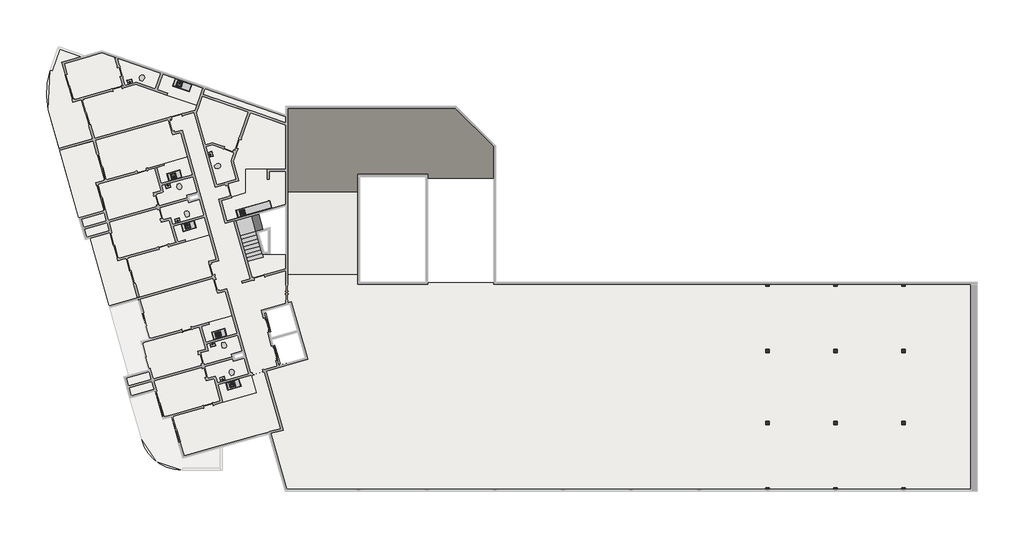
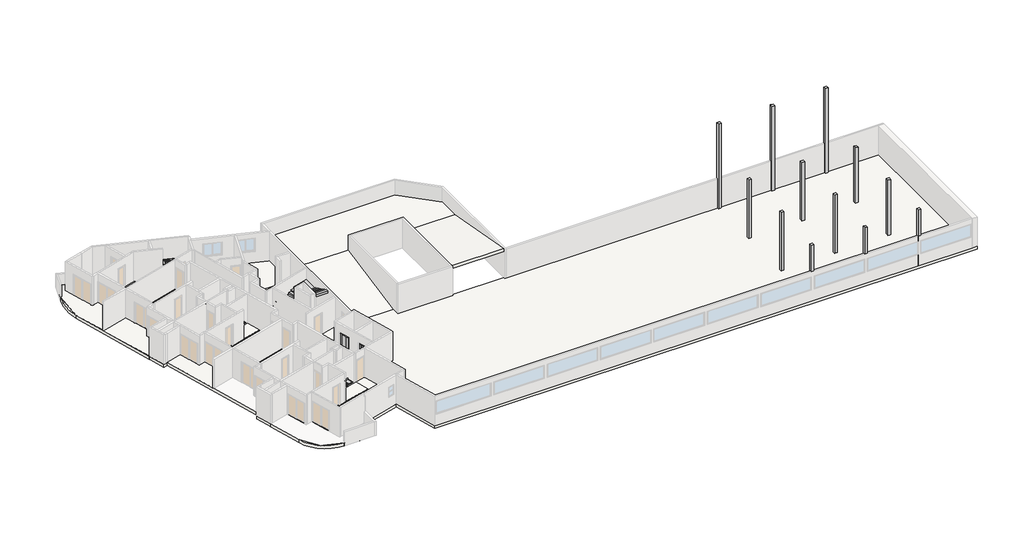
# One storey, part 4 of 4: 18 flow terminals, 17 slabs, 12 columns, 8 proxies, 1 stair flight.
"""IFC4 building model written with IfcOpenShell, lengths in millimetres."""

from ifc_helpers import new_model, si_unit, point, frame, frame_2d, origin, place, context, project, spatial, polyline, circle_curve, trimmed, segment, composite_curve, outline, extrude, faceted_brep, transform, mapped, element, save
from components import specialty_equipment_6c35da8b, specialty_equipment_77dfa124, rf_bancada_cozinha_rf_bancada_cozinha_340fef9f, rf_bancada_cozinha_rf_bancada_cozinha_cfb88ba1, rf_bancada_cozinha_rf_bancada_cozinha_2f873929, rf_bancada_cozinha_rf_bancada_cozinha_798ceddf, flow_terminal_cab7bae2, flow_terminal_3fb7dc42, flow_terminal_e42b9071, flow_terminal_c6e042c4, ap_01_creme_cr37_13e02e03, ap_01_creme_cr37_5ce6e54d

model = new_model("IFC4")

# Units and contexts
model_context = context("Model", 3, world=origin())
ifc_project = project(units=[si_unit("LENGTHUNIT", "METRE", prefix="MILLI")], contexts=[model_context])

# Site, building, storey
site = spatial("IfcSite", under=ifc_project)
building = spatial("IfcBuilding", under=site)
storey = spatial("IfcBuildingStorey", under=building, Name="Garagem 3", Elevation=42050.0)

# Proxies
placement = place(None, origin())
specialty_equipment_shape = specialty_equipment_6c35da8b(model_context)
element("IfcBuildingElementProxy", 1, Name="Porta do elevador : Porta do elevador", ObjectType="Porta do elevador : Porta do elevador", at=placement, inside=storey, context=model_context, shape_type="MappedRepresentation", body=[
    mapped(specialty_equipment_shape, transform((-76594.4337486, 15747.4543727, 42050.0), x_axis=(0.27176796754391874, -0.9623628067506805, 0.0), y_axis=(0.9623628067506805, 0.27176796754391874, 0.0), z_axis=(0.0, 0.0, 1.0))),
])
specialty_equipment_2_shape = specialty_equipment_77dfa124(model_context)
element("IfcBuildingElementProxy", 2, Name="Porta do elevador : Porta do elevador", ObjectType="Porta do elevador : Porta do elevador", at=placement, inside=storey, context=model_context, shape_type="MappedRepresentation", body=[
    mapped(specialty_equipment_2_shape, transform((-75942.1906265, 13437.7836365, 42050.0), x_axis=(-0.27176796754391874, 0.9623628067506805, 0.0), y_axis=(-0.9623628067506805, -0.27176796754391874, 0.0), z_axis=(0.0, 0.0, 1.0))),
])
rf_bancada_cozinha_rf_bancada_cozinha_shape = rf_bancada_cozinha_rf_bancada_cozinha_340fef9f(model_context)
element("IfcBuildingElementProxy", 3, Name="RF_Bancada Cozinha : RF_Bancada Cozinha", ObjectType="RF_Bancada Cozinha : RF_Bancada Cozinha", at=placement, inside=storey, context=model_context, shape_type="MappedRepresentation", body=[
    mapped(rf_bancada_cozinha_rf_bancada_cozinha_shape, transform((-82760.548019, 26451.5820971, 42800.0), x_axis=(-0.9623628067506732, -0.27176796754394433, 0.0), y_axis=(0.27176796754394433, -0.9623628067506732, 0.0), z_axis=(0.0, 0.0, 1.0))),
])
element("IfcBuildingElementProxy", 4, Name="RF_Bancada Cozinha : RF_Bancada Cozinha", ObjectType="RF_Bancada Cozinha : RF_Bancada Cozinha", at=placement, inside=storey, context=model_context, shape_type="MappedRepresentation", body=[
    mapped(rf_bancada_cozinha_rf_bancada_cozinha_shape, transform((-79472.1556117, 14806.9921354, 42800.0), x_axis=(-0.9623628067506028, -0.2717679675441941, 0.0), y_axis=(0.2717679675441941, -0.9623628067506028, 0.0), z_axis=(0.0, 0.0, 1.0))),
])
rf_bancada_cozinha_rf_bancada_cozinha_2_shape = rf_bancada_cozinha_rf_bancada_cozinha_cfb88ba1(model_context)
element("IfcBuildingElementProxy", 5, Name="RF_Bancada Cozinha : RF_Bancada Cozinha", ObjectType="RF_Bancada Cozinha : RF_Bancada Cozinha", at=placement, inside=storey, context=model_context, shape_type="MappedRepresentation", body=[
    mapped(rf_bancada_cozinha_rf_bancada_cozinha_2_shape, transform((-81877.3021245, 23323.9029751, 42800.0), x_axis=(-0.9623628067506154, -0.27176796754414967, 0.0), y_axis=(0.27176796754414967, -0.9623628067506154, 0.0), z_axis=(0.0, 0.0, 1.0))),
])
element("IfcBuildingElementProxy", 6, Name="RF_Bancada Cozinha : RF_Bancada Cozinha", ObjectType="RF_Bancada Cozinha : RF_Bancada Cozinha", at=placement, inside=storey, context=model_context, shape_type="MappedRepresentation", body=[
    mapped(rf_bancada_cozinha_rf_bancada_cozinha_2_shape, transform((-78588.9097172, 11679.3130134, 42800.0), x_axis=(-0.9623628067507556, -0.27176796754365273, 0.0), y_axis=(0.27176796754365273, -0.9623628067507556, 0.0), z_axis=(0.0, 0.0, 1.0))),
])
rf_bancada_cozinha_rf_bancada_cozinha_3_shape = rf_bancada_cozinha_rf_bancada_cozinha_2f873929(model_context)
element("IfcBuildingElementProxy", 7, Name="RF_Bancada Cozinha : RF_Bancada Cozinha", ObjectType="RF_Bancada Cozinha : RF_Bancada Cozinha", at=placement, inside=storey, context=model_context, shape_type="MappedRepresentation", body=[
    mapped(rf_bancada_cozinha_rf_bancada_cozinha_3_shape, transform((-82030.0326121, 33293.9830661, 42800.0), x_axis=(-0.9449109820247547, 0.32732741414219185, 0.0), y_axis=(-0.32732741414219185, -0.9449109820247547, 0.0), z_axis=(0.0, 0.0, 1.0))),
])
rf_bancada_cozinha_rf_bancada_cozinha_4_shape = rf_bancada_cozinha_rf_bancada_cozinha_798ceddf(model_context)
element("IfcBuildingElementProxy", 8, Name="RF_Bancada Cozinha : RF_Bancada Cozinha", ObjectType="RF_Bancada Cozinha : RF_Bancada Cozinha", at=placement, inside=storey, context=model_context, shape_type="MappedRepresentation", body=[
    mapped(rf_bancada_cozinha_rf_bancada_cozinha_4_shape, transform((-76157.6622331, 24197.9763092, 42800.0), x_axis=(-0.9623628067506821, -0.27176796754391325, 0.0), y_axis=(0.27176796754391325, -0.9623628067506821, 0.0), z_axis=(0.0, 0.0, 1.0))),
])

# Columns
element("IfcColumn", 9, ObjectType="M_Concrete-Rectangular-Column : 0.25m", at=placement, inside=storey, context=model_context, shape_type="SweptSolid", body=[
    extrude(outline(polyline([(-39675.8696428, 3676.0495751), (-39675.8696428, 3426.0495751), (-39925.8696428, 3426.0495751), (-39925.8696428, 3676.0495751), (-39675.8696428, 3676.0495751)])), frame((0.0, 0.0, 42050.0), z_axis=(0.0, 0.0, 1.0), x_axis=(1.0, 0.0, 0.0)), (0.0, 0.0, 1.0), 5500.0),
])
element("IfcColumn", 10, ObjectType="M_Concrete-Rectangular-Column : 0.25m", at=placement, inside=storey, context=model_context, shape_type="SweptSolid", body=[
    extrude(outline(polyline([(-39675.8696428, 18723.8506069), (-39675.8696428, 18473.8506069), (-39925.8696428, 18473.8506069), (-39925.8696428, 18723.8506069), (-39675.8696428, 18723.8506069)])), frame((0.0, 0.0, 42050.0), z_axis=(0.0, 0.0, 1.0), x_axis=(1.0, 0.0, 0.0)), (0.0, 0.0, 1.0), 8400.0),
])
element("IfcColumn", 11, ObjectType="M_Concrete-Rectangular-Column : 0.25m", at=placement, inside=storey, context=model_context, shape_type="SweptSolid", body=[
    extrude(outline(polyline([(-39675.8696428, 13852.5140353), (-39675.8696428, 13602.5140353), (-39925.8696428, 13602.5140353), (-39925.8696428, 13852.5140353), (-39675.8696428, 13852.5140353)])), frame((0.0, 0.0, 42050.0), z_axis=(0.0, 0.0, 1.0), x_axis=(1.0, 0.0, 0.0)), (0.0, 0.0, 1.0), 5800.0),
])
element("IfcColumn", 12, ObjectType="M_Concrete-Rectangular-Column : 0.25m", at=placement, inside=storey, context=model_context, shape_type="SweptSolid", body=[
    extrude(outline(polyline([(-39675.8696428, 8561.0495751), (-39675.8696428, 8311.0495751), (-39925.8696428, 8311.0495751), (-39925.8696428, 8561.0495751), (-39675.8696428, 8561.0495751)])), frame((0.0, 0.0, 42050.0), z_axis=(0.0, 0.0, 1.0), x_axis=(1.0, 0.0, 0.0)), (0.0, 0.0, 1.0), 5800.0),
])
element("IfcColumn", 13, ObjectType="M_Concrete-Rectangular-Column : 0.25m", at=placement, inside=storey, context=model_context, shape_type="SweptSolid", body=[
    extrude(outline(polyline([(-34675.8696428, 3676.0495751), (-34675.8696428, 3426.0495751), (-34925.8696428, 3426.0495751), (-34925.8696428, 3676.0495751), (-34675.8696428, 3676.0495751)])), frame((0.0, 0.0, 42050.0), z_axis=(0.0, 0.0, 1.0), x_axis=(1.0, 0.0, 0.0)), (0.0, 0.0, 1.0), 5500.0),
])
element("IfcColumn", 14, ObjectType="M_Concrete-Rectangular-Column : 0.25m", at=placement, inside=storey, context=model_context, shape_type="SweptSolid", body=[
    extrude(outline(polyline([(-34675.8696428, 18723.8506069), (-34675.8696428, 18473.8506069), (-34925.8696428, 18473.8506069), (-34925.8696428, 18723.8506069), (-34675.8696428, 18723.8506069)])), frame((0.0, 0.0, 42050.0), z_axis=(0.0, 0.0, 1.0), x_axis=(1.0, 0.0, 0.0)), (0.0, 0.0, 1.0), 8400.0),
])
element("IfcColumn", 15, ObjectType="M_Concrete-Rectangular-Column : 0.25m", at=placement, inside=storey, context=model_context, shape_type="SweptSolid", body=[
    extrude(outline(polyline([(-34675.8696428, 13852.5140353), (-34675.8696428, 13602.5140353), (-34925.8696428, 13602.5140353), (-34925.8696428, 13852.5140353), (-34675.8696428, 13852.5140353)])), frame((0.0, 0.0, 42050.0), z_axis=(0.0, 0.0, 1.0), x_axis=(1.0, 0.0, 0.0)), (0.0, 0.0, 1.0), 5800.0),
])
element("IfcColumn", 16, ObjectType="M_Concrete-Rectangular-Column : 0.25m", at=placement, inside=storey, context=model_context, shape_type="SweptSolid", body=[
    extrude(outline(polyline([(-34675.8696428, 8561.0495751), (-34675.8696428, 8311.0495751), (-34925.8696428, 8311.0495751), (-34925.8696428, 8561.0495751), (-34675.8696428, 8561.0495751)])), frame((0.0, 0.0, 42050.0), z_axis=(0.0, 0.0, 1.0), x_axis=(1.0, 0.0, 0.0)), (0.0, 0.0, 1.0), 5800.0),
])
element("IfcColumn", 17, ObjectType="M_Concrete-Rectangular-Column : 0.25m", at=placement, inside=storey, context=model_context, shape_type="SweptSolid", body=[
    extrude(outline(polyline([(-29675.8696428, 3676.0495751), (-29675.8696428, 3426.0495751), (-29925.8696428, 3426.0495751), (-29925.8696428, 3676.0495751), (-29675.8696428, 3676.0495751)])), frame((0.0, 0.0, 42050.0), z_axis=(0.0, 0.0, 1.0), x_axis=(1.0, 0.0, 0.0)), (0.0, 0.0, 1.0), 5500.0),
])
element("IfcColumn", 18, ObjectType="M_Concrete-Rectangular-Column : 0.25m", at=placement, inside=storey, context=model_context, shape_type="SweptSolid", body=[
    extrude(outline(polyline([(-29675.8696428, 18723.8506069), (-29675.8696428, 18473.8506069), (-29925.8696428, 18473.8506069), (-29925.8696428, 18723.8506069), (-29675.8696428, 18723.8506069)])), frame((0.0, 0.0, 42050.0), z_axis=(0.0, 0.0, 1.0), x_axis=(1.0, 0.0, 0.0)), (0.0, 0.0, 1.0), 8400.0),
])
element("IfcColumn", 19, ObjectType="M_Concrete-Rectangular-Column : 0.25m", at=placement, inside=storey, context=model_context, shape_type="SweptSolid", body=[
    extrude(outline(polyline([(-29675.8696428, 13852.5140353), (-29675.8696428, 13602.5140353), (-29925.8696428, 13602.5140353), (-29925.8696428, 13852.5140353), (-29675.8696428, 13852.5140353)])), frame((0.0, 0.0, 42050.0), z_axis=(0.0, 0.0, 1.0), x_axis=(1.0, 0.0, 0.0)), (0.0, 0.0, 1.0), 5500.0),
])
element("IfcColumn", 20, ObjectType="M_Concrete-Rectangular-Column : 0.25m", at=placement, inside=storey, context=model_context, shape_type="SweptSolid", body=[
    extrude(outline(polyline([(-29675.8696428, 8561.0495751), (-29675.8696428, 8311.0495751), (-29925.8696428, 8311.0495751), (-29925.8696428, 8561.0495751), (-29675.8696428, 8561.0495751)])), frame((0.0, 0.0, 42050.0), z_axis=(0.0, 0.0, 1.0), x_axis=(1.0, 0.0, 0.0)), (0.0, 0.0, 1.0), 5500.0),
])

# Flow terminals
flow_terminal_shape = flow_terminal_cab7bae2(model_context)
element("IfcFlowTerminal", 21, ObjectType="RF_Pias : Pia da Bancada", at=placement, inside=storey, context=model_context, shape_type="MappedRepresentation", body=[
    mapped(flow_terminal_shape, transform((-83380.5102831, 26570.4992214, 41902.9), x_axis=(-0.9623628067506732, -0.27176796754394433, 0.0), y_axis=(0.27176796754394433, -0.9623628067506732, 0.0), z_axis=(0.0, 0.0, 1.0))),
])
element("IfcFlowTerminal", 22, ObjectType="RF_Pias : Pia da Bancada", at=placement, inside=storey, context=model_context, shape_type="MappedRepresentation", body=[
    mapped(flow_terminal_shape, transform((-80092.1178758, 14925.9092597, 41902.9), x_axis=(-0.9623628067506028, -0.2717679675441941, 0.0), y_axis=(0.2717679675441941, -0.9623628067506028, 0.0), z_axis=(0.0, 0.0, 1.0))),
])
element("IfcFlowTerminal", 23, ObjectType="RF_Pias : Pia da Bancada", at=placement, inside=storey, context=model_context, shape_type="MappedRepresentation", body=[
    mapped(flow_terminal_shape, transform((-78306.8185143, 23885.0542694, 41902.9), x_axis=(-0.9623628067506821, -0.27176796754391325, 0.0), y_axis=(0.27176796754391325, -0.9623628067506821, 0.0), z_axis=(0.0, 0.0, 1.0))),
])
flow_terminal_2_shape = flow_terminal_3fb7dc42(model_context)
element("IfcFlowTerminal", 24, ObjectType="Deca_Cuba de Apoio Retangular_L7300 : L.7300.17_Branco Gelo GE17", at=placement, inside=storey, context=model_context, shape_type="MappedRepresentation", body=[
    mapped(flow_terminal_2_shape, transform((-83090.0822283, 23308.7374016, 42800.0), x_axis=(-0.9623628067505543, -0.2717679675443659, 0.0), y_axis=(0.2717679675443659, -0.9623628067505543, 0.0), z_axis=(0.0, 0.0, 1.0))),
])
element("IfcFlowTerminal", 25, ObjectType="Deca_Cuba de Apoio Retangular_L7300 : L.7300.17_Branco Gelo GE17", at=placement, inside=storey, context=model_context, shape_type="MappedRepresentation", body=[
    mapped(flow_terminal_2_shape, transform((-79801.689821, 11664.1474399, 42800.0), x_axis=(-0.9623628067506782, -0.2717679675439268, 0.0), y_axis=(0.2717679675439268, -0.9623628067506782, 0.0), z_axis=(0.0, 0.0, 1.0))),
])
element("IfcFlowTerminal", 26, ObjectType="Deca_Cuba de Apoio Retangular_L7300 : L.7300.17_Branco Gelo GE17", at=placement, inside=storey, context=model_context, shape_type="MappedRepresentation", body=[
    mapped(flow_terminal_2_shape, transform((-80677.0991462, 28154.8020678, 42800.0), x_axis=(-0.2717679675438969, 0.9623628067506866, 0.0), y_axis=(-0.9623628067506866, -0.2717679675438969, 0.0), z_axis=(0.0, 0.0, 1.0))),
])
element("IfcFlowTerminal", 27, ObjectType="Deca_Cuba de Apoio Retangular_L7300 : L.7300.17_Branco Gelo GE17", at=placement, inside=storey, context=model_context, shape_type="MappedRepresentation", body=[
    mapped(flow_terminal_2_shape, transform((-86597.4204814, 33488.7004496, 42800.0), x_axis=(-0.9623628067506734, -0.27176796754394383, 0.0), y_axis=(0.27176796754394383, -0.9623628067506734, 0.0), z_axis=(0.0, 0.0, 1.0))),
])
flow_terminal_3_shape = flow_terminal_e42b9071(model_context)
element("IfcFlowTerminal", 28, ObjectType="Deca_Cuba de Apoio Retangular_L7300 : L.7300.17_Branco Gelo GE17", at=placement, inside=storey, context=model_context, shape_type="MappedRepresentation", body=[
    mapped(flow_terminal_3_shape, transform((-83802.1143033, 25830.1279553, 42800.0), x_axis=(-0.9623628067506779, -0.2717679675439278, 0.0), y_axis=(0.2717679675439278, -0.9623628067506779, 0.0), z_axis=(0.0, 0.0, 1.0))),
])
element("IfcFlowTerminal", 29, ObjectType="Deca_Cuba de Apoio Retangular_L7300 : L.7300.17_Branco Gelo GE17", at=placement, inside=storey, context=model_context, shape_type="MappedRepresentation", body=[
    mapped(flow_terminal_3_shape, transform((-80513.721896, 14185.5379936, 42800.0), x_axis=(-0.962362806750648, -0.27176796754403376, 0.0), y_axis=(0.27176796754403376, -0.962362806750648, 0.0), z_axis=(0.0, 0.0, 1.0))),
])
flow_terminal_4_shape = flow_terminal_c6e042c4(model_context)
element("IfcFlowTerminal", 30, ObjectType="RF_Pias : Pia da Bancada", at=placement, inside=storey, context=model_context, shape_type="MappedRepresentation", body=[
    mapped(flow_terminal_4_shape, transform((-82343.483233, 22898.2626745, 41902.9), x_axis=(-0.9623628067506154, -0.27176796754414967, 0.0), y_axis=(0.27176796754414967, -0.9623628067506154, 0.0), z_axis=(0.0, 0.0, 1.0))),
])
element("IfcFlowTerminal", 31, ObjectType="RF_Pias : Pia da Bancada", at=placement, inside=storey, context=model_context, shape_type="MappedRepresentation", body=[
    mapped(flow_terminal_4_shape, transform((-79055.0908257, 11253.6727129, 41902.9), x_axis=(-0.9623628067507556, -0.27176796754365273, 0.0), y_axis=(0.27176796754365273, -0.9623628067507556, 0.0), z_axis=(0.0, 0.0, 1.0))),
])
element("IfcFlowTerminal", 32, ObjectType="RF_Pias : Pia da Bancada", at=placement, inside=storey, context=model_context, shape_type="MappedRepresentation", body=[
    mapped(flow_terminal_4_shape, transform((-82939.3392028, 33309.5545572, 41902.9), x_axis=(-0.9449109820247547, 0.32732741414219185, 0.0), y_axis=(-0.32732741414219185, -0.9449109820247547, 0.0), z_axis=(0.0, 0.0, 1.0))),
])
ap_01_creme_cr37_shape = ap_01_creme_cr37_13e02e03(model_context)
element("IfcFlowTerminal", 33, ObjectType="Deca_Shared_Assento_P.900 : AP.01_Creme CR37", at=placement, inside=storey, context=model_context, shape_type="MappedRepresentation", body=[
    mapped(ap_01_creme_cr37_shape, transform((-83017.5301151, 25983.4740486, 42437.8723674), x_axis=(0.9623628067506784, 0.2717679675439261, 0.0), y_axis=(0.0, 0.0, 1.0), z_axis=(0.2717679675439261, -0.9623628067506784, 0.0))),
])
element("IfcFlowTerminal", 34, ObjectType="Deca_Shared_Assento_P.900 : AP.01_Creme CR37", at=placement, inside=storey, context=model_context, shape_type="MappedRepresentation", body=[
    mapped(ap_01_creme_cr37_shape, transform((-79729.1377078, 14338.8840869, 42437.8723674), x_axis=(0.962362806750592, 0.2717679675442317, 0.0), y_axis=(0.0, 0.0, 1.0), z_axis=(0.2717679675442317, -0.962362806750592, 0.0))),
])
element("IfcFlowTerminal", 35, ObjectType="Deca_Shared_Assento_P.900 : AP.01_Creme CR37", at=placement, inside=storey, context=model_context, shape_type="MappedRepresentation", body=[
    mapped(ap_01_creme_cr37_shape, transform((-80349.5164684, 27236.3600819, 42437.8723674), x_axis=(-0.271767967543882, 0.9623628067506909, 0.0), y_axis=(0.0, 0.0, 1.0), z_axis=(0.9623628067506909, 0.271767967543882, 0.0))),
])
element("IfcFlowTerminal", 36, ObjectType="Deca_Shared_Assento_P.900 : AP.01_Creme CR37", at=placement, inside=storey, context=model_context, shape_type="MappedRepresentation", body=[
    mapped(ap_01_creme_cr37_shape, transform((-85777.8760768, 33566.4131555, 42437.8723674), x_axis=(-0.9449109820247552, 0.3273274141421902, 0.0), y_axis=(0.0, 0.0, 1.0000000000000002), z_axis=(0.3273274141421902, 0.9449109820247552, 0.0))),
])
ap_01_creme_cr37_2_shape = ap_01_creme_cr37_5ce6e54d(model_context)
element("IfcFlowTerminal", 37, ObjectType="Deca_Shared_Assento_P.900 : AP.01_Creme CR37", at=placement, inside=storey, context=model_context, shape_type="MappedRepresentation", body=[
    mapped(ap_01_creme_cr37_2_shape, transform((-82341.1813229, 23588.4422577, 42437.8723674), x_axis=(0.9623628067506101, 0.27176796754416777, 0.0), y_axis=(0.0, 0.0, -1.0), z_axis=(-0.27176796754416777, 0.9623628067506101, 0.0))),
])
element("IfcFlowTerminal", 38, ObjectType="Deca_Shared_Assento_P.900 : AP.01_Creme CR37", at=placement, inside=storey, context=model_context, shape_type="MappedRepresentation", body=[
    mapped(ap_01_creme_cr37_2_shape, transform((-79052.7889156, 11943.852296, 42437.8723674), x_axis=(0.9623628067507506, 0.2717679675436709, 0.0), y_axis=(0.0, 0.0, -1.0000000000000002), z_axis=(-0.2717679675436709, 0.9623628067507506, 0.0))),
])

# Slabs
element("IfcSlab", 39, ObjectType="TZ_Piso de Áreas Molhadas", at=placement, inside=storey, context=model_context, shape_type="SweptSolid", body=[
    extrude(outline(composite_curve([segment(polyline([(-90765.4571774, 31984.341749), (-90143.7425806, 32159.9118263), (-89328.438678, 29272.823406), (-91766.0080564, 28584.4621444), (-92573.2320087, 31442.9384962)]), True, "CONTINUOUS"), segment(trimmed(circle_curve(frame_2d((-87414.5556743, 32622.5665107)), 5291.829908), [point((-92573.2320087, 31442.9384962))], [point((-92422.0860726, 34333.7366032))], False, "CARTESIAN"), True, "CONTINUOUS"), segment(polyline([(-92422.0860726, 34333.7366032), (-92280.2794148, 34284.6132387), (-91729.7010481, 35873.9929322), (-90151.0501028, 35327.1311202), (-91594.3494784, 34919.5483093), (-90765.4571774, 31984.341749)]), True, "CONTINUOUS")], self_intersect=False)), frame((0.0, 0.0, 42050.0), z_axis=(0.0, 0.0, 1.0), x_axis=(1.0, 0.0, 0.0)), (0.0, 0.0, 1.0), 20.0),
])
element("IfcSlab", 40, ObjectType="TZ_Piso de Áreas Molhadas", at=placement, inside=storey, context=model_context, shape_type="SweptSolid", body=[
    extrude(outline(polyline([(-88472.3695802, 26241.3805647), (-89094.084177, 26065.8104874), (-88509.7830468, 23996.7304529), (-90325.6378284, 23483.9392686), (-91725.2428613, 28440.1077234), (-89287.6734828, 29128.468985), (-88472.3695802, 26241.3805647)])), frame((0.0, 0.0, 42050.0), z_axis=(0.0, 0.0, 1.0), x_axis=(1.0, 0.0, 0.0)), (0.0, 0.0, 1.0), 20.0),
])
element("IfcSlab", 41, ObjectType="TZ_Piso de Áreas Molhadas", at=placement, inside=storey, context=model_context, shape_type="SweptSolid", body=[
    extrude(outline(polyline([(-86855.3501733, 20515.3218645), (-86040.0462707, 17628.2334443), (-88109.1263052, 17043.9323141), (-89508.731338, 22000.1007688), (-88061.3659003, 22408.8318218), (-87477.0647701, 20339.7517872), (-86855.3501733, 20515.3218645)])), frame((0.0, 0.0, 42050.0), z_axis=(0.0, 0.0, 1.0), x_axis=(1.0, 0.0, 0.0)), (0.0, 0.0, 1.0), 20.0),
])
element("IfcSlab", 42, ObjectType="TZ_Piso de Áreas Molhadas", at=placement, inside=storey, context=model_context, shape_type="SweptSolid", body=[
    extrude(outline(polyline([(-78926.5637691, 28284.9851582), (-79146.9727346, 27648.7205404), (-78771.1333302, 26317.8283554), (-80214.6775403, 25910.176404), (-81004.3851492, 28706.6252933), (-80530.2499593, 28840.5194505), (-78926.5637691, 28284.9851582)])), frame((0.0, 0.0, 42050.0), z_axis=(0.0, 0.0, 1.0), x_axis=(1.0, 0.0, 0.0)), (0.0, 0.0, 1.0), 20.0),
])
element("IfcSlab", 43, ObjectType="TZ_Piso de Áreas Molhadas", at=placement, inside=storey, context=model_context, shape_type="SweptSolid", body=[
    extrude(outline(polyline([(-78070.9150345, 27060.8243598), (-76493.6479314, 27060.8243598), (-76493.6479314, 26310.8243598), (-76343.6479314, 26310.8243598), (-76343.6479314, 26910.8243598), (-75147.8282189, 26910.8243598), (-75147.8282189, 24483.4871675), (-79467.3156296, 23263.6786855), (-79888.5559793, 24755.3410359), (-79127.7601479, 24970.1871785), (-79141.3485461, 25018.3053183), (-78070.9150345, 25320.5920836), (-78070.9150345, 27060.8243598)])), frame((0.0, 0.0, 42050.0), z_axis=(0.0, 0.0, 1.0), x_axis=(1.0, 0.0, 0.0)), (0.0, 0.0, 1.0), 20.0),
])
element("IfcSlab", 44, ObjectType="TZ_Piso de Áreas Molhadas", at=placement, inside=storey, context=model_context, shape_type="SweptSolid", body=[
    extrude(outline(polyline([(-84719.4810559, 32955.6762822), (-86137.8721095, 33447.0223292), (-86956.7711455, 33215.7680402), (-87515.4733556, 35194.1992432), (-84326.6881589, 34089.5694606), (-84719.4810559, 32955.6762822)])), frame((0.0, 0.0, 42050.0), z_axis=(0.0, 0.0, 1.0), x_axis=(1.0, 0.0, 0.0)), (0.0, 0.0, 1.0), 20.0),
])
element("IfcSlab", 45, ObjectType="TZ_Piso de Áreas Molhadas", at=placement, inside=storey, context=model_context, shape_type="SweptSolid", body=[
    extrude(outline(polyline([(-84577.7444086, 32906.57717), (-84184.9515116, 34040.4703485), (-81226.8582774, 33015.7547641), (-81668.7502865, 31740.1249383), (-83870.9147351, 32502.9785914), (-83821.815623, 32644.7152387), (-84577.7444086, 32906.57717)])), frame((0.0, 0.0, 42050.0), z_axis=(0.0, 0.0, 1.0), x_axis=(1.0, 0.0, 0.0)), (0.0, 0.0, 1.0), 20.0),
])
element("IfcSlab", 46, ObjectType="TZ_Piso de Áreas Molhadas", at=placement, inside=storey, context=model_context, shape_type="SweptSolid", body=[
    extrude(outline(polyline([(-81949.8925784, 26524.6420501), (-81623.7710174, 25369.806682), (-82432.1557751, 25141.5215893), (-82377.8021816, 24949.0490279), (-84456.5058441, 24362.030218), (-84701.0970149, 25228.1567441), (-84123.6793309, 25391.2175246), (-84259.5633146, 25872.398928), (-81949.8925784, 26524.6420501)])), frame((0.0, 0.0, 42050.0), z_axis=(0.0, 0.0, 1.0), x_axis=(1.0, 0.0, 0.0)), (0.0, 0.0, 1.0), 20.0),
])
element("IfcSlab", 47, ObjectType="TZ_Piso de Áreas Molhadas", at=placement, inside=storey, context=model_context, shape_type="SweptSolid", body=[
    extrude(outline(polyline([(-84089.7975819, 27479.0039186), (-82357.5445298, 27968.1862602), (-81990.6577736, 26668.9964711), (-84300.3285098, 26016.753349), (-84626.4500708, 27171.5887171), (-84049.0323868, 27334.6494976), (-84089.7975819, 27479.0039186)])), frame((0.0, 0.0, 42050.0), z_axis=(0.0, 0.0, 1.0), x_axis=(1.0, 0.0, 0.0)), (0.0, 0.0, 1.0), 20.0),
])
element("IfcSlab", 48, ObjectType="TZ_Piso de Áreas Molhadas", at=placement, inside=storey, context=model_context, shape_type="SweptSolid", body=[
    extrude(outline(polyline([(-84171.1494782, 23351.5492709), (-84415.740649, 24217.675797), (-82337.0369864, 24804.6946069), (-82282.6833929, 24612.2220455), (-81474.2986352, 24840.5071383), (-81148.1770742, 23685.6717702), (-83457.8478104, 23033.4286481), (-83593.7317942, 23514.6100514), (-84171.1494782, 23351.5492709)])), frame((0.0, 0.0, 42050.0), z_axis=(0.0, 0.0, 1.0), x_axis=(1.0, 0.0, 0.0)), (0.0, 0.0, 1.0), 20.0),
])
element("IfcSlab", 49, ObjectType="TZ_Piso de Áreas Molhadas", at=placement, inside=storey, context=model_context, shape_type="SweptSolid", body=[
    extrude(outline(polyline([(-78185.906228, 13195.9171766), (-77859.7846669, 12041.0818085), (-80169.4554031, 11388.8386864), (-80305.3393869, 11870.0200898), (-80882.7570709, 11706.9593092), (-81127.3482417, 12573.0858353), (-79048.6445791, 13160.1046452), (-78994.2909856, 12967.6320839), (-78185.906228, 13195.9171766)])), frame((0.0, 0.0, 42050.0), z_axis=(0.0, 0.0, 1.0), x_axis=(1.0, 0.0, 0.0)), (0.0, 0.0, 1.0), 20.0),
])
element("IfcSlab", 50, ObjectType="TZ_Piso de Áreas Molhadas", at=placement, inside=storey, context=model_context, shape_type="SweptSolid", body=[
    extrude(outline(polyline([(-77307.7782946, 10638.3027935), (-79761.8034518, 9945.2944763), (-80128.690208, 11244.4842654), (-77674.6650508, 11937.4925826), (-77307.7782946, 10638.3027935)])), frame((0.0, 0.0, 42050.0), z_axis=(0.0, 0.0, 1.0), x_axis=(1.0, 0.0, 0.0)), (0.0, 0.0, 1.0), 20.0),
])
element("IfcSlab", 51, ObjectType="TZ_Piso de Áreas Molhadas", at=placement, inside=storey, context=model_context, shape_type="SweptSolid", body=[
    extrude(outline(polyline([(-81107.9410005, 23543.1910314), (-80740.5251229, 22242.1275601), (-82472.778175, 21752.9452185), (-82513.5433702, 21897.2996395), (-83090.9610542, 21734.238859), (-83418.0192411, 22888.8089065), (-81107.9410005, 23543.1910314)])), frame((0.0, 0.0, 42050.0), z_axis=(0.0, 0.0, 1.0), x_axis=(1.0, 0.0, 0.0)), (0.0, 0.0, 1.0), 20.0),
])
element("IfcSlab", 52, ObjectType="TZ_Piso de Áreas Molhadas", at=placement, inside=storey, context=model_context, shape_type="SweptSolid", body=[
    extrude(outline(polyline([(-81412.7046076, 13583.5667824), (-80835.2869236, 13746.6275629), (-80971.1709074, 14227.8089663), (-78661.5001712, 14880.0520884), (-78335.3786101, 13725.2167203), (-79143.7633678, 13496.9316276), (-79089.4097743, 13304.4590662), (-81168.1134368, 12717.4402563), (-81412.7046076, 13583.5667824)])), frame((0.0, 0.0, 42050.0), z_axis=(0.0, 0.0, 1.0), x_axis=(1.0, 0.0, 0.0)), (0.0, 0.0, 1.0), 20.0),
])
element("IfcSlab", 53, ObjectType="TZ_Piso de Áreas Molhadas", at=placement, inside=storey, context=model_context, shape_type="SweptSolid", body=[
    extrude(outline(polyline([(-78701.7362448, 15022.5328272), (-81012.8731576, 14371.8995868), (-81338.0576635, 15526.9987554), (-80760.6399795, 15690.059536), (-80801.4051746, 15834.413957), (-79069.1521225, 16323.5962985), (-78701.7362448, 15022.5328272)])), frame((0.0, 0.0, 42050.0), z_axis=(0.0, 0.0, 1.0), x_axis=(1.0, 0.0, 0.0)), (0.0, 0.0, 1.0), 20.0),
])
element("IfcSlab", 54, ObjectType="TZ_Laje 30cm", at=placement, inside=storey, context=model_context, shape_type="SweptSolid", body=[
    extrude(outline(composite_curve([segment(polyline([(-82713.5540687, 4969.4122055), (-82751.3896972, 4969.4122055)]), True, "CONTINUOUS"), segment(trimmed(circle_curve(frame_2d((-82751.3896972, 8069.4122055)), 3100.0), [point((-82751.3896972, 4969.4122055))], [point((-85734.7143981, 7226.9315061))], False, "CARTESIAN"), True, "CONTINUOUS"), segment(polyline([(-85734.7143981, 7226.9315061), (-86588.8282747, 10251.4506758), (-86574.3928326, 10255.5271953), (-87018.7334595, 11828.9903844), (-86664.6795577, 11928.9739962), (-89512.8078575, 22014.5362109), (-89866.8617594, 21914.5525991), (-90311.2023863, 23488.0157882), (-90325.6378284, 23483.9392686), (-92573.2320087, 31442.9384962)]), True, "CONTINUOUS"), segment(trimmed(circle_curve(frame_2d((-87414.5556743, 32622.5665107)), 5291.829908), [point((-92573.2320087, 31442.9384962))], [point((-92426.4466323, 34320.9224218))], False, "CARTESIAN"), True, "CONTINUOUS"), segment(polyline([(-92426.4466323, 34320.9224218), (-92422.0160621, 34333.7123509), (-92403.1178425, 34327.1658026), (-91809.986912, 36039.3839237), (-89899.2062586, 35377.468778), (-88658.6666899, 35727.7929124), (-75017.8282189, 31002.4584964), (-75017.8282189, 19352.5140353), (-69748.6137209, 19352.5140353), (-69748.6137209, 18732.5140353), (-24398.6137209, 18732.5140353), (-24398.6137209, 3431.0495751), (-75180.5270822, 3431.0495751), (-76371.9880656, 7650.1551103), (-79815.4990038, 6677.7193903), (-79815.4990038, 4989.4122055), (-82713.5540687, 4989.4122055), (-82713.5540687, 4969.4122055)]), True, "CONTINUOUS")], self_intersect=False), holes=[polyline([(-81583.0058223, 25225.452261), (-82247.0361589, 25037.9323634), (-82179.094167, 24797.3416617), (-81515.0638304, 24984.8615593), (-81583.0058223, 25225.452261)]), polyline([(-78294.613415, 13580.8622993), (-78958.6437516, 13393.3424017), (-78890.7017597, 13152.7517), (-78226.6714231, 13340.2715976), (-78294.613415, 13580.8622993)]), polyline([(-74840.4856705, 17153.3066079), (-76760.3994699, 16611.1295126), (-76221.8794944, 14704.1660107), (-75646.150803, 12665.442005), (-73726.2370035, 13207.6191002), (-74270.7319215, 15135.7405865), (-74840.4856705, 17153.3066079)]), polyline([(-77952.9130698, 20291.1915783), (-76801.2963825, 20616.4041949), (-76858.5413412, 20819.1154254), (-75147.8282189, 20819.1154254), (-75147.8282189, 24343.0530162), (-78807.9060206, 23309.4595541), (-77952.9130698, 20291.1915783)])]), frame((0.0, 0.0, 41750.0), z_axis=(0.0, 0.0, 1.0), x_axis=(1.0, 0.0, 0.0)), (0.0, 0.0, 1.0), 300.0),
])
element("IfcSlab", 55, ObjectType="TZ_Rampa", at=placement, inside=storey, context=model_context, shape_type="Brep", body=[
    faceted_brep([(-59878.6137209, 28729.2690021, 43200.0), (-59878.6137209, 28729.2690021, 43500.0), (-59878.6137209, 26673.5266097, 43500.0), (-59878.6137209, 18732.5140353, 44950.0), (-59878.6137209, 18732.5140353, 44650.0), (-59878.6137209, 26673.5266097, 43200.0), (-64728.6137209, 18732.5140353, 44950.0), (-64728.6137209, 18732.5140353, 44650.0), (-64728.6137209, 26673.5266097, 43500.0), (-64728.6137209, 26673.5266097, 43200.0), (-69878.6137209, 26673.5266097, 43500.0), (-69878.6137209, 26673.5266097, 43200.0), (-69878.6137209, 19352.5140353, 42050.0), (-69878.6137209, 19352.5140353, 41750.0), (-74997.8282189, 19352.5140353, 42050.0), (-74997.8282189, 19352.5140353, 41750.0), (-74997.8282189, 26673.5266097, 43500.0), (-74997.8282189, 31523.8506069, 43500.0), (-74997.8282189, 31523.8506069, 43200.0), (-74997.8282189, 26673.5266097, 43200.0), (-62701.4234226, 31523.8506069, 43500.0), (-62701.4234226, 31523.8506069, 43200.0)], [[[0, 1, 2, 3, 4, 5]], [[4, 3, 6, 7]], [[7, 6, 8, 9]], [[9, 8, 10, 11]], [[11, 10, 12, 13]], [[13, 12, 14, 15]], [[15, 14, 16, 17, 18, 19]], [[18, 17, 20, 21]], [[21, 20, 1, 0]], [[6, 3, 2, 8]], [[7, 9, 5, 4]], [[1, 20, 17, 16, 10, 8, 2]], [[0, 5, 9, 11, 19, 18, 21]], [[14, 12, 10, 16]], [[15, 19, 11, 13]]]),
])

# Stair flight
element("IfcStairFlight", 56, ObjectType="Profundidade de 150mm", at=placement, inside=storey, context=model_context, shape_type="Brep", body=[
    faceted_brep([(-78029.0944782, 20560.1246789, 42188.0952381), (-77952.7808761, 20290.7249124, 42188.0952381), (-76802.2714069, 20616.6328483, 42188.0952381), (-76878.3664628, 20886.0945229, 42188.0952381), (-78029.0944782, 20560.1246789, 42050.0), (-77952.7808761, 20290.7249124, 42050.0), (-76802.2714069, 20616.6328483, 42050.0), (-76878.3664628, 20886.0945229, 42050.0), (-78105.4080802, 20829.5244453, 42326.1904762), (-78029.0944782, 20560.1246789, 42326.1904762), (-76878.3664628, 20886.0945229, 42326.1904762), (-76954.4615188, 21155.5561975, 42326.1904762), (-78105.4080802, 20829.5244453, 42158.939228), (-78045.2065482, 20617.0029783, 42050.0), (-76894.4323913, 20942.985893, 42050.0), (-76954.4615188, 21155.5561975, 42158.939228), (-78181.7216823, 21098.9242117, 42464.2857143), (-78105.4080802, 20829.5244453, 42464.2857143), (-76954.4615188, 21155.5561975, 42464.2857143), (-77030.5565747, 21425.017872, 42464.2857143), (-78181.7216823, 21098.9242117, 42297.0344661), (-77030.5565747, 21425.017872, 42297.0344661), (-78258.0352843, 21368.3239781, 42602.3809524), (-78181.7216823, 21098.9242117, 42602.3809524), (-77030.5565747, 21425.017872, 42602.3809524), (-77106.6516307, 21694.4795466, 42602.3809524), (-78258.0352843, 21368.3239781, 42435.1297042), (-77106.6516307, 21694.4795466, 42435.1297042), (-78334.3488864, 21637.7237445, 42740.4761905), (-78258.0352843, 21368.3239781, 42740.4761905), (-77106.6516307, 21694.4795466, 42740.4761905), (-77182.7466866, 21963.9412211, 42740.4761905), (-78334.3488864, 21637.7237445, 42573.2249423), (-77182.7466866, 21963.9412211, 42573.2249423), (-78410.6624885, 21907.1235109, 42878.5714286), (-78334.3488864, 21637.7237445, 42878.5714286), (-77182.7466866, 21963.9412211, 42878.5714286), (-77258.8417426, 22233.4028957, 42878.5714286), (-78410.6624885, 21907.1235109, 42711.3201804), (-77258.8417426, 22233.4028957, 42711.3201804), (-78486.9760905, 22176.5232773, 43016.6666667), (-78410.6624885, 21907.1235109, 43016.6666667), (-77258.8417426, 22233.4028957, 43016.6666667), (-77334.9367985, 22502.8645702, 43016.6666667), (-78486.9760905, 22176.5232773, 42849.4154185), (-77334.9367985, 22502.8645702, 42849.4154185), (-77650.6473278, 23620.8332322, 43154.7619048), (-78803.8582924, 23295.1703972, 43154.7619048), (-78572.8230038, 22479.5772253, 43154.7619048), (-78486.9760905, 22176.5232773, 43154.7619048), (-77334.9367985, 22502.8645702, 43154.7619048), (-77337.6544782, 22512.4881983, 43154.7619048), (-77650.6473278, 23620.8332322, 43004.7619048), (-78803.8582924, 23295.1703972, 43004.7619048), (-78572.8230038, 22479.5772253, 43004.7619048), (-77420.5378643, 22805.9881601, 43004.7619048), (-77337.6544782, 22512.4881983, 43004.7619048), (-77650.6473278, 23620.8332322, 43292.8571429), (-77337.6544782, 22512.4881983, 43292.8571429), (-77303.5536842, 22522.118146, 43292.8571429), (-77083.6709973, 22584.2122653, 43292.8571429), (-77396.6638468, 23692.5572992, 43292.8571429), (-77616.5465338, 23630.4631799, 43292.8571429), (-77396.6638468, 23692.5572992, 43119.0904432), (-77616.5465338, 23630.4631799, 43004.7619048), (-77303.5536842, 22522.118146, 43004.7619048), (-77083.6709973, 22584.2122653, 43119.0904432), (-77127.202261, 23768.6523301, 43430.952381), (-77396.6638468, 23692.5572992, 43430.952381), (-77083.6709973, 22584.2122653, 43430.952381), (-76814.2094114, 22660.3072962, 43430.952381), (-77127.202261, 23768.6523301, 43259.1976509), (-76814.2094114, 22660.3072962, 43259.1976509), (-76857.7406751, 23844.747361, 43569.047619), (-77127.202261, 23768.6523301, 43569.047619), (-76814.2094114, 22660.3072962, 43569.047619), (-76544.7478255, 22736.4023271, 43569.047619), (-76857.7406751, 23844.747361, 43399.3048586), (-76544.7478255, 22736.4023271, 43399.3048586), (-76588.2790892, 23920.842392, 43707.1428571), (-76857.7406751, 23844.747361, 43707.1428571), (-76544.7478255, 22736.4023271, 43707.1428571), (-76275.2862396, 22812.497358, 43707.1428571), (-76588.2790892, 23920.842392, 43539.4120663), (-75975.593386, 22897.1295956, 43695.2380952), (-76275.2862396, 22812.497358, 43695.2380952), (-75147.8282189, 22779.1154254, 43845.2380952), (-75147.8282189, 24327.6207947, 43845.2380952), (-76288.5862355, 24005.4746296, 43845.2380952), (-76588.2790892, 23920.842392, 43845.2380952), (-76275.2862396, 22812.497358, 43845.2380952), (-76275.2862396, 22779.1154254, 43845.2380952), (-75147.8282189, 22779.1154254, 43695.2380952), (-75147.8282189, 24327.6207947, 43695.2380952), (-76288.5862355, 24005.4746296, 43695.2380952), (-76275.2862396, 22779.1154254, 43695.2380952), (-75147.8282189, 22779.1154254, 43983.3333333), (-76275.2862396, 22779.1154254, 43983.3333333), (-76275.2862396, 22744.1370326, 43983.3333333), (-76275.2862396, 22499.1154254, 43983.3333333), (-75147.8282189, 22499.1154254, 43983.3333333), (-75147.8282189, 22744.1370326, 43983.3333333), (-75147.8282189, 22499.1154254, 43816.0820852), (-75147.8282189, 22744.1370326, 43695.2380952), (-76275.2862396, 22744.1370326, 43695.2380952), (-76275.2862396, 22499.1154254, 43816.0820852), (-75147.8282189, 22219.1154254, 44121.4285714), (-75147.8282189, 22499.1154254, 44121.4285714), (-76275.2862396, 22499.1154254, 44121.4285714), (-76275.2862396, 22219.1154254, 44121.4285714), (-75147.8282189, 22219.1154254, 43954.1773233), (-76275.2862396, 22219.1154254, 43954.1773233), (-75147.8282189, 21939.1154254, 44259.5238095), (-75147.8282189, 22219.1154254, 44259.5238095), (-76275.2862396, 22219.1154254, 44259.5238095), (-76275.2862396, 21939.1154254, 44259.5238095), (-75147.8282189, 21939.1154254, 44092.2725614), (-76275.2862396, 21939.1154254, 44092.2725614), (-75147.8282189, 21659.1154254, 44397.6190476), (-75147.8282189, 21939.1154254, 44397.6190476), (-76275.2862396, 21939.1154254, 44397.6190476), (-76275.2862396, 21659.1154254, 44397.6190476), (-75147.8282189, 21659.1154254, 44230.3677995), (-76275.2862396, 21659.1154254, 44230.3677995), (-75147.8282189, 21379.1154254, 44535.7142857), (-75147.8282189, 21659.1154254, 44535.7142857), (-76275.2862396, 21659.1154254, 44535.7142857), (-76275.2862396, 21379.1154254, 44535.7142857), (-75147.8282189, 21379.1154254, 44368.4630376), (-76275.2862396, 21379.1154254, 44368.4630376), (-75147.8282189, 21099.1154254, 44673.8095238), (-75147.8282189, 21379.1154254, 44673.8095238), (-76275.2862396, 21379.1154254, 44673.8095238), (-76275.2862396, 21099.1154254, 44673.8095238), (-75147.8282189, 21099.1154254, 44506.5582757), (-76275.2862396, 21099.1154254, 44506.5582757), (-75147.8282189, 20819.1154254, 44811.9047619), (-75147.8282189, 21099.1154254, 44811.9047619), (-76275.2862396, 21099.1154254, 44811.9047619), (-76275.2862396, 20819.1154254, 44811.9047619), (-75147.8282189, 20819.1154254, 44644.6535138), (-76275.2862396, 20819.1154254, 44644.6535138), (-76275.2862396, 23958.3777566, 43695.2380952)], [[[0, 1, 2, 3]], [[1, 0, 4, 5]], [[2, 1, 5, 6]], [[3, 2, 6, 7]], [[8, 9, 10, 11]], [[4, 0, 9, 8, 12, 13]], [[0, 3, 10, 9]], [[3, 7, 14, 15, 11, 10]], [[16, 17, 18, 19]], [[17, 16, 20, 12, 8]], [[8, 11, 18, 17]], [[19, 18, 11, 15, 21]], [[22, 23, 24, 25]], [[23, 22, 26, 20, 16]], [[16, 19, 24, 23]], [[25, 24, 19, 21, 27]], [[28, 29, 30, 31]], [[29, 28, 32, 26, 22]], [[22, 25, 30, 29]], [[31, 30, 25, 27, 33]], [[34, 35, 36, 37]], [[35, 34, 38, 32, 28]], [[28, 31, 36, 35]], [[37, 36, 31, 33, 39]], [[40, 41, 42, 43]], [[41, 40, 44, 38, 34]], [[34, 37, 42, 41]], [[43, 42, 37, 39, 45]], [[46, 47, 48, 49, 50, 51]], [[47, 46, 52, 53]], [[40, 49, 48, 47, 53, 54, 44]], [[40, 43, 50, 49]], [[51, 50, 43, 45, 55, 56]], [[57, 58, 59, 60, 61, 62]], [[46, 57, 62, 61, 63, 64, 52]], [[46, 51, 58, 57]], [[58, 51, 56, 65, 66, 60, 59]], [[67, 68, 69, 70]], [[68, 67, 71, 63, 61]], [[61, 60, 69, 68]], [[70, 69, 60, 66, 72]], [[73, 74, 75, 76]], [[74, 73, 77, 71, 67]], [[67, 70, 75, 74]], [[76, 75, 70, 72, 78]], [[79, 80, 81, 82]], [[80, 79, 83, 77, 73]], [[73, 76, 81, 80]], [[82, 81, 76, 78, 84, 85]], [[86, 87, 88, 89, 90, 91]], [[87, 86, 92, 93]], [[79, 89, 88, 87, 93, 94, 83]], [[79, 82, 90, 89]], [[91, 90, 82, 85, 95]], [[96, 97, 98, 99, 100, 101]], [[86, 96, 101, 100, 102, 103, 92]], [[86, 91, 97, 96]], [[97, 91, 95, 104, 105, 99, 98]], [[106, 107, 108, 109]], [[107, 106, 110, 102, 100]], [[100, 99, 108, 107]], [[109, 108, 99, 105, 111]], [[112, 113, 114, 115]], [[113, 112, 116, 110, 106]], [[106, 109, 114, 113]], [[115, 114, 109, 111, 117]], [[118, 119, 120, 121]], [[119, 118, 122, 116, 112]], [[112, 115, 120, 119]], [[121, 120, 115, 117, 123]], [[124, 125, 126, 127]], [[125, 124, 128, 122, 118]], [[118, 121, 126, 125]], [[127, 126, 121, 123, 129]], [[130, 131, 132, 133]], [[131, 130, 134, 128, 124]], [[124, 127, 132, 131]], [[133, 132, 127, 129, 135]], [[136, 137, 138, 139]], [[137, 136, 140, 134, 130]], [[130, 133, 138, 137]], [[139, 138, 133, 135, 141]], [[136, 139, 141, 140]], [[5, 4, 13, 14, 7, 6]], [[54, 55, 45, 39, 33, 27, 21, 15, 14, 13, 12, 20, 26, 32, 38, 44]], [[55, 54, 53, 52, 64, 65, 56]], [[65, 64, 63, 71, 77, 83, 94, 142, 84, 78, 72, 66]], [[142, 94, 93, 92, 103, 104, 95, 85, 84]], [[104, 103, 102, 110, 116, 122, 128, 134, 140, 141, 135, 129, 123, 117, 111, 105]]]),
])

save(model, "model.ifc")
